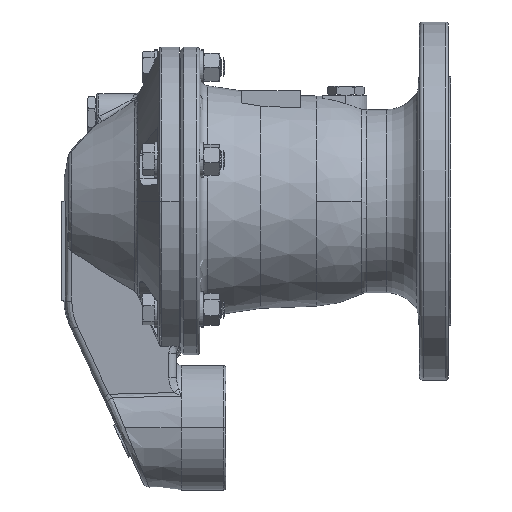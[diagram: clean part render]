
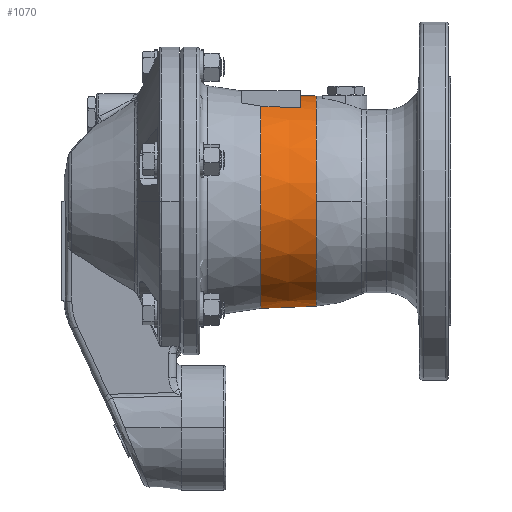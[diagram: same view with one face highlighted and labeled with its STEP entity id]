
A CAD part, left-side view. The second image highlights one B-rep face of the part: STEP entity #1070.
In plain terms, the highlighted conical face has half-angle 2.3 degrees and reference radius 89.428 mm.
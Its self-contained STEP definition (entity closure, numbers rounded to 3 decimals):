
#103 = DIRECTION ( 'NONE',  ( 0., 1., 0. ) ) ;
#488 = DIRECTION ( 'NONE',  ( 0., -1., 0. ) ) ;
#709 = CARTESIAN_POINT ( 'NONE',  ( 92.306, -30.081, 0. ) ) ;
#843 = ORIENTED_EDGE ( 'NONE', *, *, #16593, .F. ) ;
#1070 = ADVANCED_FACE ( 'NONE', ( #5114 ), #21141, .T. ) ;
#1554 = AXIS2_PLACEMENT_3D ( 'NONE', #14863, #103, #11687 ) ;
#2096 = EDGE_CURVE ( 'NONE', #7821, #3339, #8190, .T. ) ;
#2290 = DIRECTION ( 'NONE',  ( 0., 0., -1. ) ) ;
#2386 = LINE ( 'NONE', #11758, #18452 ) ;
#3339 = VERTEX_POINT ( 'NONE', #6773 ) ;
#3693 = CIRCLE ( 'NONE', #16365, 91.323 ) ;
#4404 = VECTOR ( 'NONE', #10506, 1000. ) ;
#4501 = ORIENTED_EDGE ( 'NONE', *, *, #15809, .F. ) ;
#4521 = CARTESIAN_POINT ( 'NONE',  ( 49.806, 17.11, 80.831 ) ) ;
#4798 = CARTESIAN_POINT ( 'NONE',  ( 92.306, -30.081, 89.428 ) ) ;
#4837 = VERTEX_POINT ( 'NONE', #9433 ) ;
#5114 = FACE_OUTER_BOUND ( 'NONE', #6673, .T. ) ;
#5429 = CARTESIAN_POINT ( 'NONE',  ( 92.306, -16.39, 0. ) ) ;
#6670 = ORIENTED_EDGE ( 'NONE', *, *, #2096, .T. ) ;
#6673 = EDGE_LOOP ( 'NONE', ( #4501, #843, #10765, #16600, #13865, #6670, #8801 ) ) ;
#6773 = CARTESIAN_POINT ( 'NONE',  ( 49.806, 17.11, 80.831 ) ) ;
#6941 = EDGE_CURVE ( 'NONE', #4837, #8581, #11810, .T. ) ;
#7070 = DIRECTION ( 'NONE',  ( 0., -1., 0. ) ) ;
#7821 = VERTEX_POINT ( 'NONE', #15981 ) ;
#8190 = B_SPLINE_CURVE_WITH_KNOTS ( 'NONE', 3,
 ( #14441, #21231, #11341, #4521 ),
 .UNSPECIFIED., .F., .F.,
 ( 4, 4 ),
 ( 0.158, 0.192 ),
 .UNSPECIFIED. ) ;
#8248 = DIRECTION ( 'NONE',  ( 0., 0., -1. ) ) ;
#8374 = CARTESIAN_POINT ( 'NONE',  ( 92.306, -30.081, 0. ) ) ;
#8581 = VERTEX_POINT ( 'NONE', #13661 ) ;
#8801 = ORIENTED_EDGE ( 'NONE', *, *, #9779, .T. ) ;
#9433 = CARTESIAN_POINT ( 'NONE',  ( 92.306, -30.081, 89.428 ) ) ;
#9779 = EDGE_CURVE ( 'NONE', #3339, #13202, #3693, .T. ) ;
#10252 = CARTESIAN_POINT ( 'NONE',  ( 92.306, 17.11, 0. ) ) ;
#10506 = DIRECTION ( 'NONE',  ( 0., 0.999, 0.04 ) ) ;
#10573 = CARTESIAN_POINT ( 'NONE',  ( 92.306, -16.39, 89.978 ) ) ;
#10765 = ORIENTED_EDGE ( 'NONE', *, *, #6941, .F. ) ;
#11201 = CIRCLE ( 'NONE', #20467, 89.428 ) ;
#11341 = CARTESIAN_POINT ( 'NONE',  ( 49.806, 5.944, 80.325 ) ) ;
#11687 = DIRECTION ( 'NONE',  ( 0., 0., 1. ) ) ;
#11758 = CARTESIAN_POINT ( 'NONE',  ( 92.306, -30.081, -89.428 ) ) ;
#11776 = DIRECTION ( 'NONE',  ( 0., 0., -1. ) ) ;
#11810 = CIRCLE ( 'NONE', #18819, 89.428 ) ;
#12883 = VERTEX_POINT ( 'NONE', #10573 ) ;
#13202 = VERTEX_POINT ( 'NONE', #18195 ) ;
#13413 = DIRECTION ( 'NONE',  ( 0., 0.999, -0.04 ) ) ;
#13661 = CARTESIAN_POINT ( 'NONE',  ( 2.878, -30.081, 0. ) ) ;
#13673 = VERTEX_POINT ( 'NONE', #17601 ) ;
#13684 = EDGE_CURVE ( 'NONE', #4837, #12883, #15024, .T. ) ;
#13865 = ORIENTED_EDGE ( 'NONE', *, *, #17442, .T. ) ;
#14211 = AXIS2_PLACEMENT_3D ( 'NONE', #5429, #7070, #8248 ) ;
#14441 = CARTESIAN_POINT ( 'NONE',  ( 49.806, -16.39, 79.308 ) ) ;
#14863 = CARTESIAN_POINT ( 'NONE',  ( 92.306, -30.081, 0. ) ) ;
#14952 = DIRECTION ( 'NONE',  ( 0., -1., 0. ) ) ;
#15024 = LINE ( 'NONE', #4798, #4404 ) ;
#15175 = DIRECTION ( 'NONE',  ( 0., -1., 0. ) ) ;
#15809 = EDGE_CURVE ( 'NONE', #13673, #13202, #2386, .T. ) ;
#15981 = CARTESIAN_POINT ( 'NONE',  ( 49.806, -16.39, 79.308 ) ) ;
#16365 = AXIS2_PLACEMENT_3D ( 'NONE', #10252, #15175, #18770 ) ;
#16593 = EDGE_CURVE ( 'NONE', #8581, #13673, #11201, .T. ) ;
#16600 = ORIENTED_EDGE ( 'NONE', *, *, #13684, .T. ) ;
#17442 = EDGE_CURVE ( 'NONE', #12883, #7821, #17856, .T. ) ;
#17601 = CARTESIAN_POINT ( 'NONE',  ( 92.306, -30.081, -89.428 ) ) ;
#17856 = CIRCLE ( 'NONE', #14211, 89.978 ) ;
#18195 = CARTESIAN_POINT ( 'NONE',  ( 92.306, 17.11, -91.323 ) ) ;
#18452 = VECTOR ( 'NONE', #13413, 1000. ) ;
#18770 = DIRECTION ( 'NONE',  ( 0., 0., -1. ) ) ;
#18819 = AXIS2_PLACEMENT_3D ( 'NONE', #8374, #14952, #11776 ) ;
#20467 = AXIS2_PLACEMENT_3D ( 'NONE', #709, #488, #2290 ) ;
#21141 = CONICAL_SURFACE ( 'NONE', #1554, 89.428, 0.04 ) ;
#21231 = CARTESIAN_POINT ( 'NONE',  ( 49.806, -5.223, 79.817 ) ) ;
